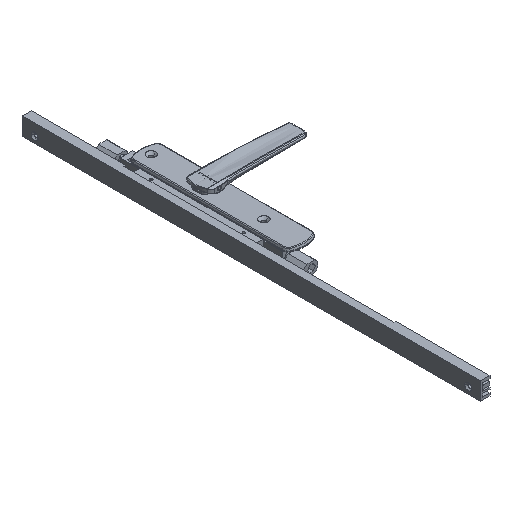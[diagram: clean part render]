
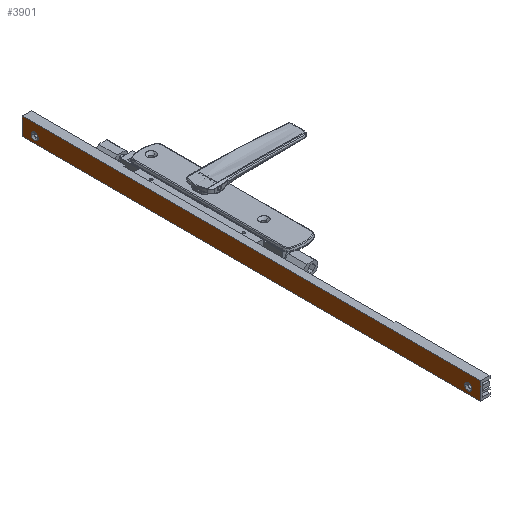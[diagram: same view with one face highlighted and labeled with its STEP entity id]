
A CAD part, isometric view. The second image highlights one B-rep face of the part: STEP entity #3901.
In plain terms, the highlighted planar face has unit normal (-1, 0, 0) as drawn and (0, 1, 0) by its records, which use the part's own axes.
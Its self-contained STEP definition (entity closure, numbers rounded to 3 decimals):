
#46 = DIRECTION ( 'NONE',  ( 0., 0., -1. ) ) ;
#207 = LINE ( 'NONE', #9712, #16373 ) ;
#316 = CIRCLE ( 'NONE', #20681, 4.216 ) ;
#545 = EDGE_LOOP ( 'NONE', ( #6509, #7049 ) ) ;
#849 = EDGE_CURVE ( 'NONE', #4396, #7791, #9166, .T. ) ;
#1497 = EDGE_LOOP ( 'NONE', ( #26501, #23995 ) ) ;
#2185 = FACE_OUTER_BOUND ( 'NONE', #7036, .T. ) ;
#3117 = DIRECTION ( 'NONE',  ( -1., 0., 0. ) ) ;
#3382 = ORIENTED_EDGE ( 'NONE', *, *, #26664, .F. ) ;
#3726 = EDGE_CURVE ( 'NONE', #13025, #4396, #207, .T. ) ;
#3901 = ADVANCED_FACE ( 'NONE', ( #15896, #18371, #2185 ), #25821, .F. ) ;
#3982 = VECTOR ( 'NONE', #3117, 1000. ) ;
#4122 = EDGE_CURVE ( 'NONE', #18450, #9150, #27822, .T. ) ;
#4396 = VERTEX_POINT ( 'NONE', #29070 ) ;
#4911 = CARTESIAN_POINT ( 'NONE',  ( -1.7, 12.4, 544. ) ) ;
#5221 = DIRECTION ( 'NONE',  ( 0., 1., 0. ) ) ;
#6351 = EDGE_CURVE ( 'NONE', #21214, #29692, #13493, .T. ) ;
#6509 = ORIENTED_EDGE ( 'NONE', *, *, #25257, .F. ) ;
#6833 = CARTESIAN_POINT ( 'NONE',  ( 20.8, 12.4, 0. ) ) ;
#7036 = EDGE_LOOP ( 'NONE', ( #27944, #16657, #24481, #3382 ) ) ;
#7049 = ORIENTED_EDGE ( 'NONE', *, *, #6351, .F. ) ;
#7791 = VERTEX_POINT ( 'NONE', #16307 ) ;
#8900 = DIRECTION ( 'NONE',  ( 1., 0., 0. ) ) ;
#9150 = VERTEX_POINT ( 'NONE', #15742 ) ;
#9166 = LINE ( 'NONE', #6833, #9399 ) ;
#9399 = VECTOR ( 'NONE', #11653, 1000. ) ;
#9712 = CARTESIAN_POINT ( 'NONE',  ( 19.3, 12.4, 544. ) ) ;
#10927 = AXIS2_PLACEMENT_3D ( 'NONE', #21039, #30676, #23797 ) ;
#11653 = DIRECTION ( 'NONE',  ( -1., 0., 0. ) ) ;
#11695 = CARTESIAN_POINT ( 'NONE',  ( 20.8, 12.4, 544. ) ) ;
#11937 = VERTEX_POINT ( 'NONE', #4911 ) ;
#12539 = DIRECTION ( 'NONE',  ( 0., 0., 1. ) ) ;
#12731 = VECTOR ( 'NONE', #17612, 1000. ) ;
#13025 = VERTEX_POINT ( 'NONE', #23632 ) ;
#13403 = AXIS2_PLACEMENT_3D ( 'NONE', #11695, #18814, #8900 ) ;
#13493 = CIRCLE ( 'NONE', #15477, 4.216 ) ;
#13834 = CARTESIAN_POINT ( 'NONE',  ( -1.7, 12.4, 544. ) ) ;
#14305 = CARTESIAN_POINT ( 'NONE',  ( 11.8, 12.4, 15. ) ) ;
#14418 = AXIS2_PLACEMENT_3D ( 'NONE', #14305, #23922, #23450 ) ;
#14633 = EDGE_CURVE ( 'NONE', #13025, #11937, #21905, .T. ) ;
#15477 = AXIS2_PLACEMENT_3D ( 'NONE', #26297, #30809, #23642 ) ;
#15742 = CARTESIAN_POINT ( 'NONE',  ( 11.8, 12.4, 19.216 ) ) ;
#15896 = FACE_BOUND ( 'NONE', #1497, .T. ) ;
#16307 = CARTESIAN_POINT ( 'NONE',  ( -1.7, 12.4, 0. ) ) ;
#16373 = VECTOR ( 'NONE', #46, 1000. ) ;
#16657 = ORIENTED_EDGE ( 'NONE', *, *, #3726, .T. ) ;
#17612 = DIRECTION ( 'NONE',  ( 0., 0., -1. ) ) ;
#17811 = CARTESIAN_POINT ( 'NONE',  ( 11.8, 12.4, 533.216 ) ) ;
#18371 = FACE_BOUND ( 'NONE', #545, .T. ) ;
#18450 = VERTEX_POINT ( 'NONE', #21984 ) ;
#18814 = DIRECTION ( 'NONE',  ( 0., -1., 0. ) ) ;
#19512 = CARTESIAN_POINT ( 'NONE',  ( 11.8, 12.4, 524.784 ) ) ;
#20096 = LINE ( 'NONE', #13834, #12731 ) ;
#20681 = AXIS2_PLACEMENT_3D ( 'NONE', #26362, #5221, #12539 ) ;
#21039 = CARTESIAN_POINT ( 'NONE',  ( 11.8, 12.4, 529. ) ) ;
#21120 = EDGE_CURVE ( 'NONE', #9150, #18450, #316, .T. ) ;
#21214 = VERTEX_POINT ( 'NONE', #19512 ) ;
#21905 = LINE ( 'NONE', #29232, #3982 ) ;
#21984 = CARTESIAN_POINT ( 'NONE',  ( 11.8, 12.4, 10.784 ) ) ;
#23450 = DIRECTION ( 'NONE',  ( 0., 0., 1. ) ) ;
#23632 = CARTESIAN_POINT ( 'NONE',  ( 19.3, 12.4, 544. ) ) ;
#23642 = DIRECTION ( 'NONE',  ( 0., 0., 1. ) ) ;
#23797 = DIRECTION ( 'NONE',  ( 0., 0., 1. ) ) ;
#23922 = DIRECTION ( 'NONE',  ( 0., 1., 0. ) ) ;
#23995 = ORIENTED_EDGE ( 'NONE', *, *, #4122, .F. ) ;
#24481 = ORIENTED_EDGE ( 'NONE', *, *, #849, .T. ) ;
#25257 = EDGE_CURVE ( 'NONE', #29692, #21214, #29782, .T. ) ;
#25821 = PLANE ( 'NONE',  #13403 ) ;
#26297 = CARTESIAN_POINT ( 'NONE',  ( 11.8, 12.4, 529. ) ) ;
#26362 = CARTESIAN_POINT ( 'NONE',  ( 11.8, 12.4, 15. ) ) ;
#26501 = ORIENTED_EDGE ( 'NONE', *, *, #21120, .F. ) ;
#26664 = EDGE_CURVE ( 'NONE', #11937, #7791, #20096, .T. ) ;
#27822 = CIRCLE ( 'NONE', #14418, 4.216 ) ;
#27944 = ORIENTED_EDGE ( 'NONE', *, *, #14633, .F. ) ;
#29070 = CARTESIAN_POINT ( 'NONE',  ( 19.3, 12.4, 0. ) ) ;
#29232 = CARTESIAN_POINT ( 'NONE',  ( 20.8, 12.4, 544. ) ) ;
#29692 = VERTEX_POINT ( 'NONE', #17811 ) ;
#29782 = CIRCLE ( 'NONE', #10927, 4.216 ) ;
#30676 = DIRECTION ( 'NONE',  ( 0., 1., 0. ) ) ;
#30809 = DIRECTION ( 'NONE',  ( 0., 1., 0. ) ) ;
